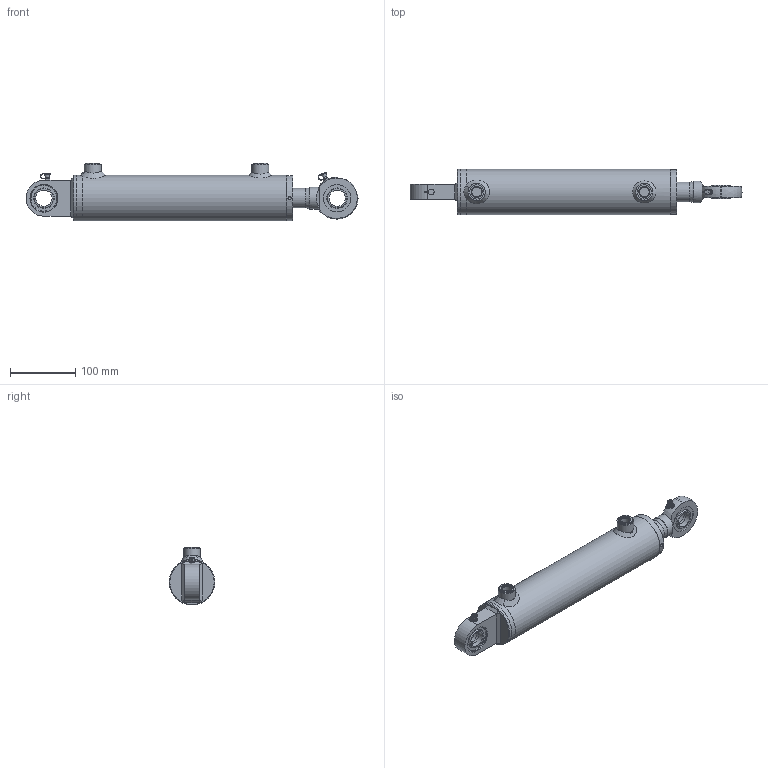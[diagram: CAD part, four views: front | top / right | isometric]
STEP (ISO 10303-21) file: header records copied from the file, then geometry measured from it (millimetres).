
FILE_DESCRIPTION( ( 'Unknown' ), '1' );
FILE_NAME( 'E:/LIBRERIA_3d/CILINDRI/HMB/HMB3300200.stp', 'Unknown', ( 'Unknown' ), ( 'Unknown' ), 'PSStep 17.0.49', 'Unknown', ' ' );
FILE_SCHEMA( ( 'AUTOMOTIVE_DESIGN { 1 0 10303 214 1 1 1 1 }' ) );
Length unit declared in the file: millimetre
Products named in the file (37): CSTSF025C0; tsc25c_CORPO; AN00006001; CG07006030; CT00060020; CSTSF025N0; An00006001; CSTS025N_CORPO; CSAI002042; CSAI002042-oa0; STL3500200-oa7; Saldatura d'angolo 1-oa5; FTM3500200-oa6; CBSC220600; CSTS025C00; cge0250000; APGR013000; HM03300200; Saldatura con preparazione 1-oa3; Saldatura d'angolo 1-oa4; CF00060070; CBS0600000; CDA0002015; APG0600000; SBL3030200; CSTS025N00; CGE0250000; Assem1; Saldatura d'angolo 2-oa1; Saldatura d'angolo 3-oa2
Assembly tree (30 placements, depth 4):
  Saldatura d'angolo 1-oa5
  Saldatura d'angolo 1-oa5
  Saldatura d'angolo 1-oa4
  Saldatura d'angolo 1-oa4
  Assem1
    CSTS025N00
      CGE0250000
      APGR013000
      CSTSF025N0
        An00006001
        CSTS025N_CORPO
        CSAI002042
        CSAI002042-oa0
    CSTS025C00
      cge0250000
      APGR013000
      CSTSF025C0
        tsc25c_CORPO
        AN00006001
    HM03300200
      Saldatura con preparazione 1-oa3
      Saldatura con preparazione 1-oa3
      CF00060070
      CBS0600000
      CDA0002015
      APG0600000  x2
      SBL3030200
      CG07006030
        CG07006030
      CT00060020
        CT00060020
      STL3500200-oa7
        FTM3500200-oa6
        CBSC220600
Bounding box: 509.5 x 70 x 89 mm (x, y, z)
Volume: 943257.3 mm3; surface area: 289859 mm2
Topology: 30 solids, 30 shells, 366 faces, 763 edges, 474 vertices
Faces by surface type: plane 134, cylinder 91, torus 46, cone 44, bspline 44, sphere 7
Full cylindrical faces by diameter (mm): 2 x4, 4 x1, 4.25 x1, 5 x8, 6 x4, 7 x2, 8 x2, 9 x2, 14.95 x2, 16 x2, 16.6 x2, 19.4 x1, 20 x5, 22 x2, 24.5 x1, 25 x4, 26 x2, 30 x5, 32 x1, 33 x1, 33.5 x1, 38.6 x1, 40 x3, 42 x8, 44 x1, 55 x1, 55.39 x2, 58.65 x2, 59.9 x1, 60 x1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
Entity records: 15002 total; most frequent: CARTESIAN_POINT 5960, DIRECTION 1316, ORIENTED_EDGE 914, AXIS2_PLACEMENT_3D 607, EDGE_LOOP 600, FACE_OUTER_BOUND 474, EDGE_CURVE 457, VERTEX_POINT 385
